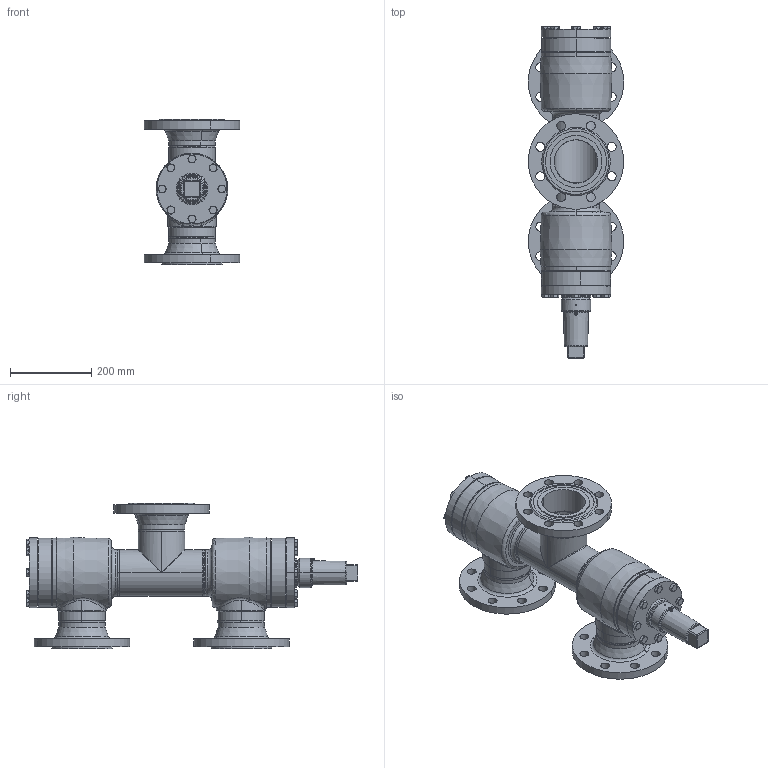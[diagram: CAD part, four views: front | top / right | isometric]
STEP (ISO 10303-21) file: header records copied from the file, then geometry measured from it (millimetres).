
FILE_DESCRIPTION (( 'STEP AP214' ), '1' );
FILE_NAME ('WVB23020D19-DN100_DIN-FL-N-F_PS40.STEP', '2010-09-08T08:45:23', ( 'Eckhard Grams' ), ( 'AWP Kälte Klima Armaturen GmbH' ), 'SwSTEP 2.0', 'SolidWorks 2002296', '' );
FILE_SCHEMA (( 'AUTOMOTIVE_DESIGN' ));
Length unit declared in the file: millimetre
Products named in the file (21): WVB23020D19-DN100_DIN-FL-N-F_PS40; AVB16300E19_Deck+Schr-DN100_Standard; Deckel16300E19-DN100_Standard; Geh,kpl23020E19-DN100_DIN-FL-N-F_PS40_Standard; Flansch-DIN2635-Feder_PS40_DIN-Flansch-DN100_PS40-Feder; Geh,kpl23000E19-DN100_R1_PS40_Standard; T-Stück DIN2615_DN100; Gehäuse23000E19-DN100_R1_PS40_Standard; bead23000-19-1kopf_Standard; bead23000-19-1_Standard; Kopfstück16300-DN100_Standard; bead23000-19-2kopf_Standard; bead23000-19-2_Standard; Flansch-DIN2635-Nut_PS40_DIN-Flansch-DN100_PS40-Nut; bead23020-19-2_Standard; bead23020-19-1_Standard; bead23020-19-3_Standard; Kappe 16402-19_DN80-100 (M60x3)_Standard; WVB-R23000E19_Deck+Schr-DN100_Standard; Deckel23000E19-DN100_Standard; Sechskantschraube-DIN933_M12x 35
Assembly tree (38 placements, depth 4):
  WVB23020D19-DN100_DIN-FL-N-F_PS40
    Kappe 16402-19_DN80-100 (M60x3)_Standard
    Geh,kpl23020E19-DN100_DIN-FL-N-F_PS40_Standard
      Flansch-DIN2635-Nut_PS40_DIN-Flansch-DN100_PS40-Nut
      bead23020-19-2_Standard
      bead23020-19-3_Standard
      Flansch-DIN2635-Feder_PS40_DIN-Flansch-DN100_PS40-Feder  x2
      bead23020-19-1_Standard
      Geh,kpl23000E19-DN100_R1_PS40_Standard
        bead23000-19-1_Standard
        Gehäuse23000E19-DN100_R1_PS40_Standard  x2
        Kopfstück16300-DN100_Standard  x2
        bead23000-19-1kopf_Standard
        bead23000-19-2kopf_Standard
        bead23000-19-2_Standard
        T-Stück DIN2615_DN100
    AVB16300E19_Deck+Schr-DN100_Standard
      Deckel16300E19-DN100_Standard
      Sechskantschraube-DIN933_M12x 35  x8
    WVB-R23000E19_Deck+Schr-DN100_Standard
      Sechskantschraube-DIN933_M12x 35  x8
      Deckel23000E19-DN100_Standard
Bounding box: 234.78 x 816.5 x 357 mm (x, y, z)
Volume: 7649651.9 mm3; surface area: 1370436.6 mm2
Topology: 34 solids, 34 shells, 869 faces, 1941 edges, 1164 vertices
Faces by surface type: cone 305, cylinder 260, plane 220, bspline 52, torus 32
Entity records: 40405 total; most frequent: CARTESIAN_POINT 29958, DIRECTION 2008, ORIENTED_EDGE 1878, EDGE_CURVE 939, AXIS2_PLACEMENT_3D 867, VERTEX_POINT 579, EDGE_LOOP 508, CIRCLE 466
